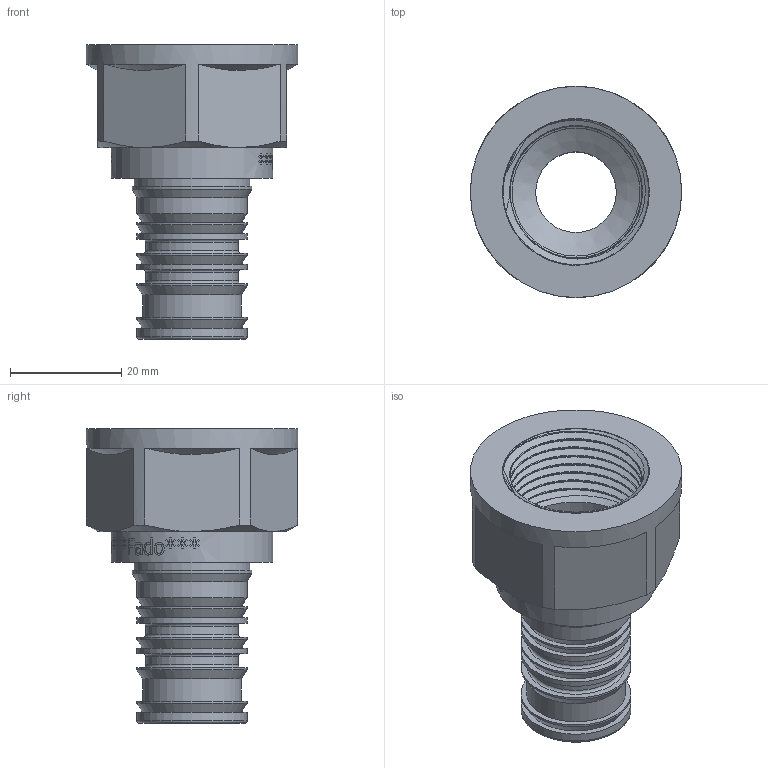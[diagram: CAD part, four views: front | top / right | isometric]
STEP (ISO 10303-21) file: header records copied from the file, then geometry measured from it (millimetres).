
FILE_DESCRIPTION(/* description */ (''),/* implementation_level */ '2;1');
FILE_NAME(/* name */ 'C:\Users\Doom\Desktop\Фадотех\Пресс\HDM16 15.01.2020\HDM16 15.01.2020.stp',/* time_stamp */ '2022-08-11T18:03:25+03:00',/* author */ ('Doom'),/* organization */ (''),/* preprocessor_version */ 'ST-DEVELOPER v18',/* originating_system */ 'Autodesk Inventor 2020',/* authorisation */ '');
FILE_SCHEMA (('AUTOMOTIVE_DESIGN { 1 0 10303 214 3 1 1 }'));
Length unit declared in the file: millimetre
Products named in the file (1): 16 Model 18.12.2019
Bounding box: 38 x 38 x 53 mm (x, y, z)
Volume: 15432.7 mm3; surface area: 13117.9 mm2
Topology: 2 solids, 2 shells, 519 faces, 1451 edges, 978 vertices
Faces by surface type: bspline 329, plane 104, cylinder 59, cone 22, torus 5
Full cylindrical faces by diameter (mm): 14.5 x1, 16.6 x2, 17.8 x1, 19.8 x8, 20.8 x1, 21.5 x1, 23 x1, 23.71 x6, 26.4 x2, 29 x1, 38 x1
Entity records: 26867 total; most frequent: CARTESIAN_POINT 15593, ORIENTED_EDGE 2894, EDGE_CURVE 1447, DIRECTION 1356, VERTEX_POINT 976, B_SPLINE_CURVE_WITH_KNOTS 681, EDGE_LOOP 567, FACE_OUTER_BOUND 519
